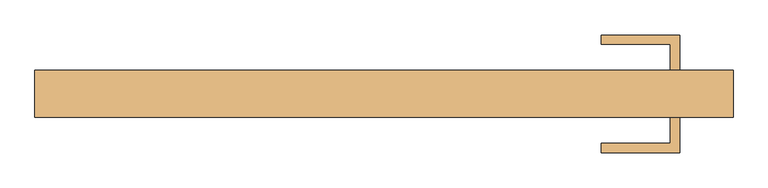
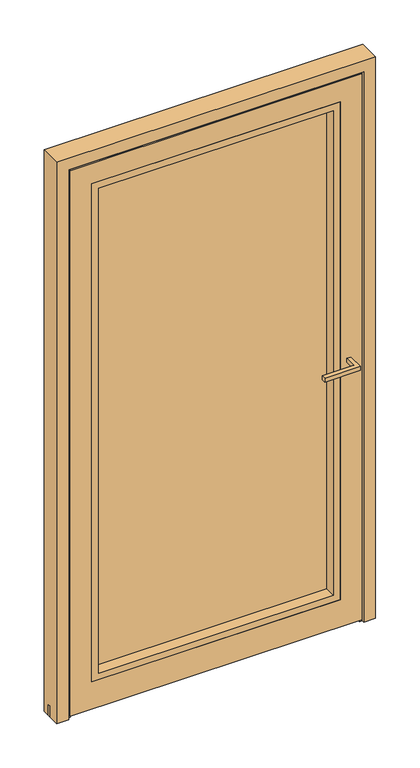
"""IFC4 building model written with IfcOpenShell, lengths in millimetres: door geometry, Reynaers_MasterLine 8_Door_Plinth_Inward Opening_Single Vent : Reynaers_MasterLine 8_Door_Plinth_Inward Opening_Single Vent."""

from ifc_helpers import new_model, si_unit, frame, origin, place, context, project, spatial, polyline, outline, extrude, faceted_brep, source, transform, mapped, element, save


def door_b22b6475(model_context):
    return source(origin(), model_context, "Body", "SolidModel", [
        extrude(outline(polyline([(482.5, 53.7), (467.5, 53.7), (467.5, 96.2), (355.0, 96.2), (355.0, 111.2), (482.5, 111.2), (482.5, 53.7)])), frame((0.0, 0.0, 1001.0), z_axis=(0.0, 0.0, 1.0), x_axis=(1.0, 0.0, 0.0)), (0.0, 0.0, 1.0), 15.0),
        extrude(outline(polyline([(482.5, -23.3), (482.5, -80.8), (355.0, -80.8), (355.0, -65.8), (467.5, -65.8), (467.5, -23.3), (482.5, -23.3)])), frame((0.0, 0.0, 1001.0), z_axis=(0.0, 0.0, 1.0), x_axis=(1.0, 0.0, 0.0)), (0.0, 0.0, 1.0), 15.0),
        extrude(outline(polyline([(436.0, 45.7), (436.0, 21.7), (-436.0, 21.7), (-436.0, 45.7), (436.0, 45.7)])), frame((0.0, 0.0, 122.0), z_axis=(0.0, 0.0, 1.0), x_axis=(1.0, 0.0, 0.0)), (0.0, 0.0, 1.0), 1864.0),
        faceted_brep([(-521.5, -23.3, 11.0), (-521.5, -19.5, 11.0), (-506.5, -19.5, 11.0), (-506.5, -19.3036628, 11.0), (506.5, -19.3036628, 11.0), (506.5, -19.5, 11.0), (521.5, -19.5, 11.0), (521.5, -23.3, 11.0), (-495.5, 49.9, 11.0), (-495.5, 53.7, 11.0), (495.5, 53.7, 11.0), (495.5, 49.9, 11.0), (521.5, -23.3, 2071.5), (-521.5, -23.3, 2071.5), (444.0000003, -23.3, 1994.0000003), (444.0000003, -23.3, 114.0), (-444.0000003, -23.3, 114.0), (-444.0000003, -23.3, 1994.0000003), (-521.5, -19.5, 2071.5), (-521.5, -19.5, 41.0), (-521.5, -21.3, 41.0), (-521.5, -21.3, 12.5), (-521.5, -19.5, 12.5), (-506.5, -19.5, 12.5), (506.5, -19.5, 12.5), (521.5, -19.5, 12.5), (521.5, -19.5, 2071.5), (521.5, -19.5, 41.0), (506.5, -19.5, 41.0), (506.5, -19.5, 2056.5), (-506.5, -19.5, 2056.5), (-506.5, -19.5, 41.0), (-506.5, -19.3036628, 12.5), (-506.5, 44.9001837, 2056.5), (-506.5, 44.9001837, 41.0), (506.5, 44.9001837, 2056.5), (506.5, 44.9001837, 41.0), (495.5, 44.9001837, 41.0), (495.5, 44.9001837, 2045.5), (-495.5, 44.9001837, 2045.5), (-495.5, 44.9001837, 41.0), (-495.5, 53.7, 2045.5), (-495.5, 49.9, 12.5), (-495.5, 51.7000025, 12.5), (-495.5, 51.7000025, 41.0), (495.5, 53.7, 2045.5), (-417.0, 53.7, 1967.0), (-417.0, 53.7, 141.0), (417.0, 53.7, 141.0), (417.0, 53.7, 1967.0), (-417.0, 49.7, 1967.0), (-417.0, 49.7, 141.0), (444.0000003, 49.7, 1994.0000003), (-444.0000003, 49.7, 1994.0000003), (-444.0000003, 49.7, 114.0), (444.0000003, 49.7, 114.0), (417.0, 49.7, 1967.0), (417.0, 49.7, 141.0), (521.5, -21.3, 12.5), (521.5, -21.3, 41.0), (506.5, -19.3036628, 12.5), (495.5, 51.7000025, 41.0), (495.5, 51.7000025, 12.5), (495.5, 49.9, 12.5)], [[[0, 1, 2, 3, 4, 5, 6, 7]], [[8, 9, 10, 11]], [[0, 7, 12, 13], [14, 15, 16, 17]], [[1, 0, 13, 18, 19, 20, 21, 22]], [[2, 1, 22, 23]], [[6, 5, 24, 25]], [[18, 26, 27, 28, 29, 30, 31, 19]], [[3, 2, 23, 32]], [[30, 33, 34, 31]], [[33, 35, 36, 37, 38, 39, 40, 34]], [[39, 41, 9, 8, 42, 43, 44, 40]], [[10, 9, 41, 45], [46, 47, 48, 49]], [[46, 50, 51, 47]], [[52, 53, 54, 55], [50, 56, 57, 51]], [[54, 53, 17, 16]], [[13, 12, 26, 18]], [[30, 29, 35, 33]], [[39, 38, 45, 41]], [[46, 49, 56, 50]], [[14, 17, 53, 52]], [[7, 6, 25, 58, 59, 27, 26, 12]], [[5, 4, 60, 24]], [[35, 29, 28, 36]], [[10, 45, 38, 37, 61, 62, 63, 11]], [[56, 49, 48, 57]], [[14, 52, 55, 15]], [[20, 19, 31, 34, 40, 44, 61, 37, 36, 28, 27, 59]], [[61, 44, 43, 62]], [[62, 43, 42, 63]], [[63, 42, 8, 11]], [[60, 4, 3, 32]], [[60, 32, 23, 22, 21, 58, 25, 24]], [[20, 59, 58, 21]], [[16, 15, 55, 54]], [[51, 57, 48, 47]]]),
        extrude(outline(polyline([(-570.0, 20.3737548), (-570.0, 29.2475831), (570.0, 29.2475831), (570.0, 20.3737548), (-570.0, 20.3737548)])), frame((0.0, 0.0, 1.0), z_axis=(0.0, 0.0, 1.0), x_axis=(1.0, 0.0, 0.0)), (0.0, 0.0, 1.0), 40.0),
        extrude(outline(polyline([(113.9999997, -444.0000003), (113.9999997, 444.0000003), (1994.0000003, 444.0000003), (1994.0000003, -444.0000003), (113.9999997, -444.0000003)]), holes=[polyline([(1969.0000232, -419.0000232), (1969.0000232, 419.0000232), (138.9999768, 419.0000232), (138.9999768, -419.0000232), (1969.0000232, -419.0000232)])]), frame((0.0, -23.3, 0.0), z_axis=(0.0, 1.0, 0.0), x_axis=(0.0, 0.0, 1.0)), (0.0, 0.0, 1.0), 40.2),
        faceted_brep([(-501.5, 49.9, 0.0), (-516.5, 49.9, 0.0), (-516.5, -14.4998163, 0.0), (-527.5, -14.4998163, 0.0), (-527.5, -23.3, 0.0), (-570.0, -23.3, 0.0), (-570.0, 53.7, 0.0), (-501.5, 53.7, 0.0), (501.5, 49.9, 0.0), (501.5, 53.7, 0.0), (570.0, 53.7, 0.0), (570.0, -23.3, 0.0), (527.5, -23.3, 0.0), (527.5, -14.4998163, 0.0), (516.5, -14.4998163, 0.0), (516.5, 49.9, 0.0), (-501.5, 49.9, 2051.5), (501.5, 49.9, 2051.5), (516.5, 49.9, 2066.5), (-516.5, 49.9, 2066.5), (-516.5, -14.4998163, 2066.5), (516.5, -14.4998163, 2066.5), (527.5, -14.4998163, 2077.5), (-527.5, -14.4998163, 2077.5), (-527.5, -23.3, 2077.5), (527.5, -23.3, 2077.5), (570.0, -23.3, 2120.0), (-570.0, -23.3, 2120.0), (-570.0, 53.7, 2120.0), (570.0, 53.7, 2120.0), (501.5, 53.7, 2051.5), (-501.5, 53.7, 2051.5)], [[[0, 1, 2, 3, 4, 5, 6, 7]], [[8, 9, 10, 11, 12, 13, 14, 15]], [[1, 0, 16, 17, 8, 15, 18, 19]], [[2, 1, 19, 20]], [[3, 2, 20, 21, 14, 13, 22, 23]], [[4, 3, 23, 24]], [[5, 4, 24, 25, 12, 11, 26, 27]], [[6, 5, 27, 28]], [[7, 6, 28, 29, 10, 9, 30, 31]], [[0, 7, 31, 16]], [[20, 19, 18, 21]], [[24, 23, 22, 25]], [[28, 27, 26, 29]], [[16, 31, 30, 17]], [[21, 18, 15, 14]], [[25, 22, 13, 12]], [[29, 26, 11, 10]], [[17, 30, 9, 8]]]),
    ])


if __name__ == "__main__":
    model = new_model("IFC4")
    model_context = context("Model", 3, world=origin())
    ifc_project = project(units=[si_unit("LENGTHUNIT", "METRE", prefix="MILLI")], contexts=[model_context])
    site = spatial("IfcSite", under=ifc_project)
    building = spatial("IfcBuilding", under=site)
    placement = place(None, origin())
    door_shape = door_b22b6475(model_context)
    element("IfcDoor", 1, ObjectType="Reynaers_MasterLine 8_Door_Plinth_Inward Opening_Single Vent : Reynaers_MasterLine 8_Door_Plinth_Inward Opening_Single Vent", at=placement, inside=building, context=model_context, shape_type="MappedRepresentation", body=[
        mapped(door_shape, transform((0.0, 0.0, 0.0), x_axis=(1.0, 0.0, 0.0), y_axis=(0.0, 1.0, 0.0), z_axis=(0.0, 0.0, 1.0))),
    ])
    save(model, "model.ifc")
